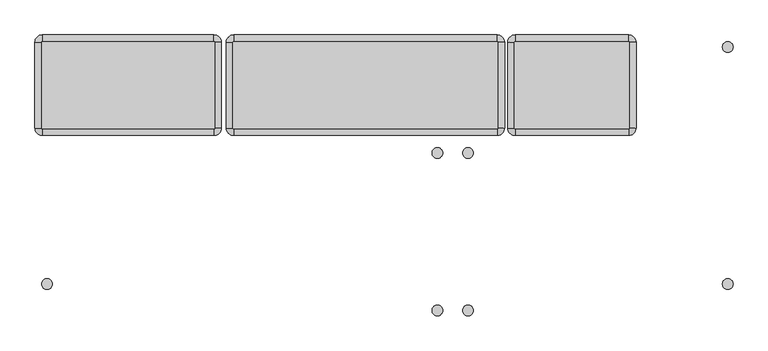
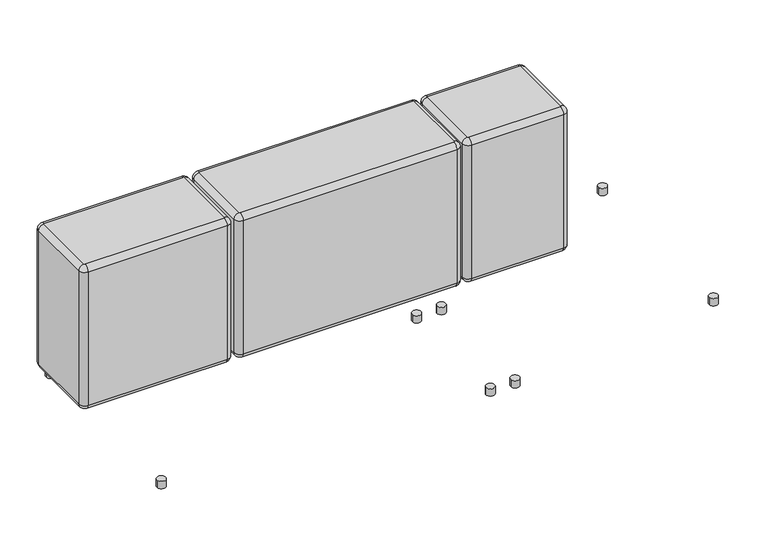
"""IFC4 building model written with IfcOpenShell, lengths in millimetres: furniture geometry, Blks_Mueb_Muuto_Sofá de 3 Plazas Softblocks : Único."""

from ifc_helpers import new_model, si_unit, point, frame, frame_2d, origin, origin_with_axes, place, context, project, spatial, circle_curve, ellipse_curve, trimmed, segment, composite_curve, outline, extrude, source, transform, mapped, element, save
from ifc_brep_helpers import plane_surface, cylinder_surface, revolved_surface, advanced_brep


def furniture_f4cfe565(model_context):
    return source(origin(), model_context, "Body", "SolidModel", [
        extrude(outline(composite_curve([segment(trimmed(circle_curve(frame_2d((-1271.6021541, 490.7895672)), 20.0), [point((-1291.6021541, 490.7895672))], [point((-1251.6021541, 490.7895672))], False, "CARTESIAN"), True, "CONTINUOUS"), segment(trimmed(circle_curve(frame_2d((-1271.6021541, 490.7895672)), 20.0), [point((-1251.6021541, 490.7895672))], [point((-1291.6021541, 490.7895672))], False, "CARTESIAN"), True, "CONTINUOUS")], self_intersect=False)), origin_with_axes(), (0.0, 0.0, 1.0), 35.0),
        extrude(outline(composite_curve([segment(trimmed(circle_curve(frame_2d((-1271.6021541, -394.560734)), 20.0), [point((-1291.6021541, -394.560734))], [point((-1251.6021541, -394.560734))], False, "CARTESIAN"), True, "CONTINUOUS"), segment(trimmed(circle_curve(frame_2d((-1271.6021541, -394.560734)), 20.0), [point((-1251.6021541, -394.560734))], [point((-1291.6021541, -394.560734))], False, "CARTESIAN"), True, "CONTINUOUS")], self_intersect=False)), origin_with_axes(), (0.0, 0.0, 1.0), 35.0),
        extrude(outline(composite_curve([segment(trimmed(circle_curve(frame_2d((186.9109334, -493.0)), 20.0), [point((166.9109334, -493.0))], [point((206.9109334, -493.0))], False, "CARTESIAN"), True, "CONTINUOUS"), segment(trimmed(circle_curve(frame_2d((186.9109334, -493.0)), 20.0), [point((206.9109334, -493.0))], [point((166.9109334, -493.0))], False, "CARTESIAN"), True, "CONTINUOUS")], self_intersect=False)), origin_with_axes(), (0.0, 0.0, 1.0), 35.0),
        extrude(outline(composite_curve([segment(trimmed(circle_curve(frame_2d((186.9109334, 95.0)), 20.0), [point((166.9109334, 95.0))], [point((206.9109334, 95.0))], False, "CARTESIAN"), True, "CONTINUOUS"), segment(trimmed(circle_curve(frame_2d((186.9109334, 95.0)), 20.0), [point((206.9109334, 95.0))], [point((166.9109334, 95.0))], False, "CARTESIAN"), True, "CONTINUOUS")], self_intersect=False)), origin_with_axes(), (0.0, 0.0, 1.0), 35.0),
        extrude(outline(composite_curve([segment(trimmed(circle_curve(frame_2d((301.0613932, -493.0)), 20.0), [point((281.0613932, -493.0))], [point((321.0613932, -493.0))], False, "CARTESIAN"), True, "CONTINUOUS"), segment(trimmed(circle_curve(frame_2d((301.0613932, -493.0)), 20.0), [point((321.0613932, -493.0))], [point((281.0613932, -493.0))], False, "CARTESIAN"), True, "CONTINUOUS")], self_intersect=False)), origin_with_axes(), (0.0, 0.0, 1.0), 35.0),
        extrude(outline(composite_curve([segment(trimmed(circle_curve(frame_2d((301.0613932, 95.0)), 20.0), [point((281.0613932, 95.0))], [point((321.0613932, 95.0))], False, "CARTESIAN"), True, "CONTINUOUS"), segment(trimmed(circle_curve(frame_2d((301.0613932, 95.0)), 20.0), [point((321.0613932, 95.0))], [point((281.0613932, 95.0))], False, "CARTESIAN"), True, "CONTINUOUS")], self_intersect=False)), origin_with_axes(), (0.0, 0.0, 1.0), 35.0),
        extrude(outline(composite_curve([segment(trimmed(circle_curve(frame_2d((1271.6021541, 490.7895672)), 20.0), [point((1251.6021541, 490.7895672))], [point((1291.6021541, 490.7895672))], False, "CARTESIAN"), True, "CONTINUOUS"), segment(trimmed(circle_curve(frame_2d((1271.6021541, 490.7895672)), 20.0), [point((1291.6021541, 490.7895672))], [point((1251.6021541, 490.7895672))], False, "CARTESIAN"), True, "CONTINUOUS")], self_intersect=False)), origin_with_axes(), (0.0, 0.0, 1.0), 35.0),
        extrude(outline(composite_curve([segment(trimmed(circle_curve(frame_2d((1271.6021541, -394.560734)), 20.0), [point((1251.6021541, -394.560734))], [point((1291.6021541, -394.560734))], False, "CARTESIAN"), True, "CONTINUOUS"), segment(trimmed(circle_curve(frame_2d((1271.6021541, -394.560734)), 20.0), [point((1291.6021541, -394.560734))], [point((1251.6021541, -394.560734))], False, "CARTESIAN"), True, "CONTINUOUS")], self_intersect=False)), origin_with_axes(), (0.0, 0.0, 1.0), 35.0),
        extrude(outline(composite_curve([segment(trimmed(circle_curve(frame_2d((387.2672465, 489.3348818)), 20.0), [point((367.2672465, 489.3348818))], [point((407.2672465, 489.3348818))], False, "CARTESIAN"), True, "CONTINUOUS"), segment(trimmed(circle_curve(frame_2d((387.2672465, 489.3348818)), 20.0), [point((407.2672465, 489.3348818))], [point((367.2672465, 489.3348818))], False, "CARTESIAN"), True, "CONTINUOUS")], self_intersect=False)), origin_with_axes(), (0.0, 0.0, 1.0), 35.0),
        extrude(outline(composite_curve([segment(trimmed(circle_curve(frame_2d((501.4177063, 489.3348818)), 20.0), [point((481.4177063, 489.3348818))], [point((521.4177063, 489.3348818))], False, "CARTESIAN"), True, "CONTINUOUS"), segment(trimmed(circle_curve(frame_2d((501.4177063, 489.3348818)), 20.0), [point((521.4177063, 489.3348818))], [point((481.4177063, 489.3348818))], False, "CARTESIAN"), True, "CONTINUOUS")], self_intersect=False)), origin_with_axes(), (0.0, 0.0, 1.0), 35.0),
        advanced_brep(
        [(-1288.765058, 511.1266633, 735.0), (-1291.6021541, 508.2895672, 735.0), (-1291.6021541, 188.2895672, 735.0), (-1288.765058, 185.452471, 735.0), (-647.6023474, 185.452471, 735.0), (-644.7652512, 188.2895672, 735.0), (-644.7652512, 508.2895672, 735.0), (-647.6023474, 511.1266633, 735.0), (-1291.6021541, 508.2895672, 35.0), (-1288.765058, 511.1266633, 35.0), (-647.6023474, 511.1266633, 35.0), (-644.7652512, 508.2895672, 35.0), (-644.7652512, 188.2895672, 35.0), (-647.6023474, 185.452471, 35.0), (-1288.765058, 185.452471, 35.0), (-1291.6021541, 188.2895672, 35.0), (-1316.5364303, 508.2895672, 711.8115942), (-1288.765058, 536.0609394, 711.8115942), (-1316.5364303, 188.2895672, 711.8115942), (-1288.765058, 160.5181949, 711.8115942), (-647.6023474, 160.5181949, 711.8115942), (-619.8309751, 188.2895672, 711.8115942), (-619.8309751, 508.2895672, 711.8115942), (-647.6023474, 536.0609394, 711.8115942), (-1288.765058, 536.0609394, 61.8115942), (-1316.5364303, 508.2895672, 61.8115942), (-1316.5364303, 188.2895672, 61.8115942), (-1288.765058, 160.5181949, 61.8115942), (-647.6023474, 160.5181949, 61.8115942), (-619.8309751, 188.2895672, 61.8115942), (-619.8309751, 508.2895672, 61.8115942), (-647.6023474, 536.0609394, 61.8115942)],
        [
            (0, 1, circle_curve(frame((-1288.765058, 508.2895672, 735.0), z_axis=(0.0, 0.0, 1.0), x_axis=(0.0, 1.0, 0.0)), 2.8370961)),
            (1, 2),
            (2, 3, circle_curve(frame((-1288.765058, 188.2895672, 735.0), z_axis=(0.0, 0.0, 1.0), x_axis=(-1.0, 0.0, 0.0)), 2.8370961)),
            (3, 4),
            (4, 5, circle_curve(frame((-647.6023474, 188.2895672, 735.0), z_axis=(0.0, 0.0, 1.0), x_axis=(0.0, -1.0, 0.0)), 2.8370961)),
            (5, 6),
            (6, 7, circle_curve(frame((-647.6023474, 508.2895672, 735.0), z_axis=(0.0, 0.0, 1.0), x_axis=(1.0, 0.0, 0.0)), 2.8370961)),
            (7, 0),
            (8, 9, circle_curve(frame((-1288.765058, 508.2895672, 35.0), z_axis=(0.0, 0.0, -1.0), x_axis=(0.0, 1.0, 0.0)), 2.8370961)),
            (9, 10),
            (10, 11, circle_curve(frame((-647.6023474, 508.2895672, 35.0), z_axis=(0.0, 0.0, -1.0), x_axis=(1.0, 0.0, 0.0)), 2.8370961)),
            (11, 12),
            (12, 13, circle_curve(frame((-647.6023474, 188.2895672, 35.0), z_axis=(0.0, 0.0, -1.0), x_axis=(0.0, -1.0, 0.0)), 2.8370961)),
            (13, 14),
            (14, 15, circle_curve(frame((-1288.765058, 188.2895672, 35.0), z_axis=(0.0, 0.0, -1.0), x_axis=(-1.0, 0.0, 0.0)), 2.8370961)),
            (15, 8),
            (16, 1, circle_curve(frame((-1291.6021541, 508.2895672, 710.0), z_axis=(0.0, 1.0, 0.0), x_axis=(1.0, 0.0, 0.0)), 25.0)),
            (0, 17, circle_curve(frame((-1288.765058, 511.1266633, 710.0), z_axis=(-1.0, 0.0, 0.0), x_axis=(0.0, -1.0, 0.0)), 25.0)),
            (17, 16, circle_curve(frame((-1288.765058, 508.2895672, 711.8115942), z_axis=(0.0, 0.0, 1.0), x_axis=(0.0, 1.0, 0.0)), 27.7713723)),
            (16, 18),
            (18, 2, circle_curve(frame((-1291.6021541, 188.2895672, 710.0), z_axis=(0.0, 1.0, 0.0), x_axis=(1.0, 0.0, 0.0)), 25.0)),
            (18, 19, circle_curve(frame((-1288.765058, 188.2895672, 711.8115942), z_axis=(0.0, 0.0, 1.0), x_axis=(-1.0, 0.0, 0.0)), 27.7713723)),
            (19, 3, circle_curve(frame((-1288.765058, 185.452471, 710.0), z_axis=(-1.0, 0.0, 0.0), x_axis=(0.0, 1.0, 0.0)), 25.0)),
            (19, 20),
            (20, 4, circle_curve(frame((-647.6023474, 185.452471, 710.0), z_axis=(-1.0, 0.0, 0.0), x_axis=(0.0, 1.0, 0.0)), 25.0)),
            (20, 21, circle_curve(frame((-647.6023474, 188.2895672, 711.8115942), z_axis=(0.0, 0.0, 1.0), x_axis=(0.0, -1.0, 0.0)), 27.7713723)),
            (21, 5, circle_curve(frame((-644.7652512, 188.2895672, 710.0), z_axis=(0.0, -1.0, 0.0), x_axis=(-1.0, 0.0, 0.0)), 25.0)),
            (21, 22),
            (22, 6, circle_curve(frame((-644.7652512, 508.2895672, 710.0), z_axis=(0.0, -1.0, 0.0), x_axis=(-1.0, 0.0, 0.0)), 25.0)),
            (22, 23, circle_curve(frame((-647.6023474, 508.2895672, 711.8115942), z_axis=(0.0, 0.0, 1.0), x_axis=(1.0, 0.0, 0.0)), 27.7713723)),
            (23, 7, circle_curve(frame((-647.6023474, 511.1266633, 710.0), z_axis=(1.0, 0.0, 0.0), x_axis=(0.0, -1.0, 0.0)), 25.0)),
            (23, 17),
            (17, 24, circle_curve(frame((-1288.765058, -3937.1481995, 386.8115942), z_axis=(-1.0, 0.0, 0.0), x_axis=(0.0, -1.0, 0.0)), 4485.0)),
            (24, 25, circle_curve(frame((-1288.765058, 508.2895672, 61.8115942), z_axis=(0.0, 0.0, 1.0), x_axis=(0.0, 1.0, 0.0)), 27.7713723)),
            (25, 16, circle_curve(frame((3156.6727087, 508.2895672, 386.8115942), z_axis=(0.0, 1.0, 0.0), x_axis=(1.0, 0.0, 0.0)), 4485.0)),
            (25, 26),
            (26, 18, circle_curve(frame((3156.6727087, 188.2895672, 386.8115942), z_axis=(0.0, 1.0, 0.0), x_axis=(1.0, 0.0, 0.0)), 4485.0)),
            (26, 27, circle_curve(frame((-1288.765058, 188.2895672, 61.8115942), z_axis=(0.0, 0.0, 1.0), x_axis=(-1.0, 0.0, 0.0)), 27.7713723)),
            (27, 19, circle_curve(frame((-1288.765058, 4633.7273338, 386.8115942), z_axis=(-1.0, 0.0, 0.0), x_axis=(0.0, 1.0, 0.0)), 4485.0)),
            (27, 28),
            (28, 20, circle_curve(frame((-647.6023474, 4633.7273338, 386.8115942), z_axis=(-1.0, 0.0, 0.0), x_axis=(0.0, 1.0, 0.0)), 4485.0)),
            (28, 29, circle_curve(frame((-647.6023474, 188.2895672, 61.8115942), z_axis=(0.0, 0.0, 1.0), x_axis=(0.0, -1.0, 0.0)), 27.7713723)),
            (29, 21, circle_curve(frame((-5093.040114, 188.2895672, 386.8115942), z_axis=(0.0, -1.0, 0.0), x_axis=(-1.0, 0.0, 0.0)), 4485.0)),
            (29, 30),
            (30, 22, circle_curve(frame((-5093.040114, 508.2895672, 386.8115942), z_axis=(0.0, -1.0, 0.0), x_axis=(-1.0, 0.0, 0.0)), 4485.0)),
            (30, 31, circle_curve(frame((-647.6023474, 508.2895672, 61.8115942), z_axis=(0.0, 0.0, 1.0), x_axis=(1.0, 0.0, 0.0)), 27.7713723)),
            (31, 23, circle_curve(frame((-647.6023474, -3937.1481995, 386.8115942), z_axis=(1.0, 0.0, 0.0), x_axis=(0.0, -1.0, 0.0)), 4485.0)),
            (31, 24),
            (24, 9, circle_curve(frame((-1288.765058, 506.9005148, 63.9302383), z_axis=(-1.0, 0.0, 0.0), x_axis=(0.0, -1.0, 0.0)), 29.2372881)),
            (8, 25, circle_curve(frame((-1287.3760056, 508.2895672, 63.9302383), z_axis=(0.0, 1.0, 0.0), x_axis=(1.0, 0.0, 0.0)), 29.2372881)),
            (15, 26, circle_curve(frame((-1287.3760056, 188.2895672, 63.9302383), z_axis=(0.0, 1.0, 0.0), x_axis=(1.0, 0.0, 0.0)), 29.2372881)),
            (14, 27, circle_curve(frame((-1288.765058, 189.6786195, 63.9302383), z_axis=(-1.0, 0.0, 0.0), x_axis=(0.0, 1.0, 0.0)), 29.2372881)),
            (13, 28, circle_curve(frame((-647.6023474, 189.6786195, 63.9302383), z_axis=(-1.0, 0.0, 0.0), x_axis=(0.0, 1.0, 0.0)), 29.2372881)),
            (12, 29, circle_curve(frame((-648.9913997, 188.2895672, 63.9302383), z_axis=(0.0, -1.0, 0.0), x_axis=(-1.0, 0.0, 0.0)), 29.2372881)),
            (11, 30, circle_curve(frame((-648.9913997, 508.2895672, 63.9302383), z_axis=(0.0, -1.0, 0.0), x_axis=(-1.0, 0.0, 0.0)), 29.2372881)),
            (10, 31, circle_curve(frame((-647.6023474, 506.9005148, 63.9302383), z_axis=(1.0, 0.0, 0.0), x_axis=(0.0, -1.0, 0.0)), 29.2372881)),
        ],
        [
            plane_surface(frame((-647.6023474, 228.2895672, 735.0), z_axis=(0.0, 0.0, 1.0), x_axis=(-1.0, 0.0, 0.0))),
            plane_surface(frame((-647.6023474, 228.2895672, 35.0), z_axis=(0.0, 0.0, -1.0), x_axis=(1.0, 0.0, 0.0))),
            revolved_surface(trimmed(ellipse_curve(frame((-1288.765058, 511.1266633, 710.0), z_axis=(1.0, 0.0, 0.0), x_axis=(0.0, -1.0, 0.0)), 25.0, 25.0), [point((-1288.765058, 536.0609394, 711.8115942))], [point((-1288.765058, 511.1266633, 735.0))], True, "CARTESIAN"), (-1288.765058, 508.2895672, 735.0), (0.0, 0.0, 1.0)),
            cylinder_surface(frame((-1291.6021541, 508.2895672, 710.0), z_axis=(0.0, -1.0, 0.0), x_axis=(1.0, 0.0, 0.0)), 25.0),
            revolved_surface(trimmed(ellipse_curve(frame((-1291.6021541, 188.2895672, 710.0), z_axis=(0.0, 1.0, 0.0), x_axis=(1.0, 0.0, 0.0)), 25.0, 25.0), [point((-1316.5364303, 188.2895672, 711.8115942))], [point((-1291.6021541, 188.2895672, 735.0))], True, "CARTESIAN"), (-1288.765058, 188.2895672, 735.0), (0.0, 0.0, 1.0)),
            cylinder_surface(frame((-1288.765058, 185.452471, 710.0), z_axis=(1.0, 0.0, 0.0), x_axis=(0.0, 1.0, 0.0)), 25.0),
            revolved_surface(trimmed(ellipse_curve(frame((-647.6023474, 185.452471, 710.0), z_axis=(-1.0, 0.0, 0.0), x_axis=(0.0, 1.0, 0.0)), 25.0, 25.0), [point((-647.6023474, 160.5181949, 711.8115942))], [point((-647.6023474, 185.452471, 735.0))], True, "CARTESIAN"), (-647.6023474, 188.2895672, 735.0), (0.0, 0.0, 1.0)),
            cylinder_surface(frame((-644.7652512, 188.2895672, 710.0), z_axis=(0.0, 1.0, 0.0), x_axis=(-1.0, 0.0, 0.0)), 25.0),
            revolved_surface(trimmed(ellipse_curve(frame((-644.7652512, 508.2895672, 710.0), z_axis=(0.0, -1.0, 0.0), x_axis=(-1.0, 0.0, 0.0)), 25.0, 25.0), [point((-619.8309751, 508.2895672, 711.8115942))], [point((-644.7652512, 508.2895672, 735.0))], True, "CARTESIAN"), (-647.6023474, 508.2895672, 735.0), (0.0, 0.0, 1.0)),
            cylinder_surface(frame((-647.6023474, 511.1266633, 710.0), z_axis=(-1.0, 0.0, 0.0), x_axis=(0.0, -1.0, 0.0)), 25.0),
            revolved_surface(trimmed(ellipse_curve(frame((-1288.765058, -3937.1481995, 386.8115942), z_axis=(1.0, 0.0, 0.0), x_axis=(0.0, -1.0, 0.0)), 4485.0, 4485.0), [point((-1288.765058, 536.0609394, 61.8115942))], [point((-1288.765058, 536.0609394, 711.8115942))], True, "CARTESIAN"), (-1288.765058, 508.2895672, 735.0), (0.0, 0.0, 1.0)),
            cylinder_surface(frame((3156.6727087, 508.2895672, 386.8115942), z_axis=(0.0, -1.0, 0.0), x_axis=(1.0, 0.0, 0.0)), 4485.0),
            revolved_surface(trimmed(ellipse_curve(frame((3156.6727087, 188.2895672, 386.8115942), z_axis=(0.0, 1.0, 0.0), x_axis=(1.0, 0.0, 0.0)), 4485.0, 4485.0), [point((-1316.5364303, 188.2895672, 61.8115942))], [point((-1316.5364303, 188.2895672, 711.8115942))], True, "CARTESIAN"), (-1288.765058, 188.2895672, 735.0), (0.0, 0.0, 1.0)),
            cylinder_surface(frame((-1288.765058, 4633.7273338, 386.8115942), z_axis=(1.0, 0.0, 0.0), x_axis=(0.0, 1.0, 0.0)), 4485.0),
            revolved_surface(trimmed(ellipse_curve(frame((-647.6023474, 4633.7273338, 386.8115942), z_axis=(-1.0, 0.0, 0.0), x_axis=(0.0, 1.0, 0.0)), 4485.0, 4485.0), [point((-647.6023474, 160.5181949, 61.8115942))], [point((-647.6023474, 160.5181949, 711.8115942))], True, "CARTESIAN"), (-647.6023474, 188.2895672, 735.0), (0.0, 0.0, 1.0)),
            cylinder_surface(frame((-5093.040114, 188.2895672, 386.8115942), z_axis=(0.0, 1.0, 0.0), x_axis=(-1.0, 0.0, 0.0)), 4485.0),
            revolved_surface(trimmed(ellipse_curve(frame((-5093.040114, 508.2895672, 386.8115942), z_axis=(0.0, -1.0, 0.0), x_axis=(-1.0, 0.0, 0.0)), 4485.0, 4485.0), [point((-619.8309751, 508.2895672, 61.8115942))], [point((-619.8309751, 508.2895672, 711.8115942))], True, "CARTESIAN"), (-647.6023474, 508.2895672, 735.0), (0.0, 0.0, 1.0)),
            cylinder_surface(frame((-647.6023474, -3937.1481995, 386.8115942), z_axis=(-1.0, 0.0, 0.0), x_axis=(0.0, -1.0, 0.0)), 4485.0),
            revolved_surface(trimmed(ellipse_curve(frame((-1288.765058, 506.9005148, 63.9302383), z_axis=(1.0, 0.0, 0.0), x_axis=(0.0, -1.0, 0.0)), 29.2372881, 29.2372881), [point((-1288.765058, 511.1266633, 35.0))], [point((-1288.765058, 536.0609394, 61.8115942))], True, "CARTESIAN"), (-1288.765058, 508.2895672, 735.0), (0.0, 0.0, 1.0)),
            cylinder_surface(frame((-1287.3760056, 508.2895672, 63.9302383), z_axis=(0.0, -1.0, 0.0), x_axis=(1.0, 0.0, 0.0)), 29.2372881),
            revolved_surface(trimmed(ellipse_curve(frame((-1287.3760056, 188.2895672, 63.9302383), z_axis=(0.0, 1.0, 0.0), x_axis=(1.0, 0.0, 0.0)), 29.2372881, 29.2372881), [point((-1291.6021541, 188.2895672, 35.0))], [point((-1316.5364303, 188.2895672, 61.8115942))], True, "CARTESIAN"), (-1288.765058, 188.2895672, 735.0), (0.0, 0.0, 1.0)),
            cylinder_surface(frame((-1288.765058, 189.6786195, 63.9302383), z_axis=(1.0, 0.0, 0.0), x_axis=(0.0, 1.0, 0.0)), 29.2372881),
            revolved_surface(trimmed(ellipse_curve(frame((-647.6023474, 189.6786195, 63.9302383), z_axis=(-1.0, 0.0, 0.0), x_axis=(0.0, 1.0, 0.0)), 29.2372881, 29.2372881), [point((-647.6023474, 185.452471, 35.0))], [point((-647.6023474, 160.5181949, 61.8115942))], True, "CARTESIAN"), (-647.6023474, 188.2895672, 735.0), (0.0, 0.0, 1.0)),
            cylinder_surface(frame((-648.9913997, 188.2895672, 63.9302383), z_axis=(0.0, 1.0, 0.0), x_axis=(-1.0, 0.0, 0.0)), 29.2372881),
            revolved_surface(trimmed(ellipse_curve(frame((-648.9913997, 508.2895672, 63.9302383), z_axis=(0.0, -1.0, 0.0), x_axis=(-1.0, 0.0, 0.0)), 29.2372881, 29.2372881), [point((-644.7652512, 508.2895672, 35.0))], [point((-619.8309751, 508.2895672, 61.8115942))], True, "CARTESIAN"), (-647.6023474, 508.2895672, 735.0), (0.0, 0.0, 1.0)),
            cylinder_surface(frame((-647.6023474, 506.9005148, 63.9302383), z_axis=(-1.0, 0.0, 0.0), x_axis=(0.0, -1.0, 0.0)), 29.2372881),
        ],
        [
            (0, [[1, 2, 3, 4, 5, 6, 7, 8]]),
            (1, [[9, 10, 11, 12, 13, 14, 15, 16]]),
            (2, [[17, -1, 18, 19]]),
            (3, [[-17, 20, 21, -2]]),
            (4, [[-21, 22, 23, -3]]),
            (5, [[-23, 24, 25, -4]]),
            (6, [[-25, 26, 27, -5]]),
            (7, [[-27, 28, 29, -6]]),
            (8, [[-29, 30, 31, -7]]),
            (9, [[-18, -8, -31, 32]]),
            (10, [[-19, 33, 34, 35]]),
            (11, [[-20, -35, 36, 37]]),
            (12, [[-22, -37, 38, 39]]),
            (13, [[-24, -39, 40, 41]]),
            (14, [[-26, -41, 42, 43]]),
            (15, [[-28, -43, 44, 45]]),
            (16, [[-30, -45, 46, 47]]),
            (17, [[-32, -47, 48, -33]]),
            (18, [[-34, 49, -9, 50]]),
            (19, [[-36, -50, -16, 51]]),
            (20, [[-38, -51, -15, 52]]),
            (21, [[-40, -52, -14, 53]]),
            (22, [[-42, -53, -13, 54]]),
            (23, [[-44, -54, -12, 55]]),
            (24, [[-46, -55, -11, 56]]),
            (25, [[-48, -56, -10, -49]]),
        ],
    ),
        advanced_brep(
        [(-573.8523474, 511.1266633, 735.0), (-576.6894435, 508.2895672, 735.0), (-576.6894435, 188.2895672, 735.0), (-573.8523474, 185.452471, 735.0), (410.0, 185.452471, 735.0), (412.8370961, 188.2895672, 735.0), (412.8370961, 508.2895672, 735.0), (410.0, 511.1266633, 735.0), (-576.6894435, 508.2895672, 35.0), (-573.8523474, 511.1266633, 35.0), (410.0, 511.1266633, 35.0), (412.8370961, 508.2895672, 35.0), (412.8370961, 188.2895672, 35.0), (410.0, 185.452471, 35.0), (-573.8523474, 185.452471, 35.0), (-576.6894435, 188.2895672, 35.0), (-601.6237196, 508.2895672, 711.8115942), (-573.8523474, 536.0609394, 711.8115942), (-601.6237196, 188.2895672, 711.8115942), (-573.8523474, 160.5181949, 711.8115942), (410.0, 160.5181949, 711.8115942), (437.7713723, 188.2895672, 711.8115942), (437.7713723, 508.2895672, 711.8115942), (410.0, 536.0609394, 711.8115942), (-573.8523474, 536.0609394, 61.8115942), (-601.6237196, 508.2895672, 61.8115942), (-601.6237196, 188.2895672, 61.8115942), (-573.8523474, 160.5181949, 61.8115942), (410.0, 160.5181949, 61.8115942), (437.7713723, 188.2895672, 61.8115942), (437.7713723, 508.2895672, 61.8115942), (410.0, 536.0609394, 61.8115942)],
        [
            (0, 1, circle_curve(frame((-573.8523474, 508.2895672, 735.0), z_axis=(0.0, 0.0, 1.0), x_axis=(0.0, 1.0, 0.0)), 2.8370961)),
            (1, 2),
            (2, 3, circle_curve(frame((-573.8523474, 188.2895672, 735.0), z_axis=(0.0, 0.0, 1.0), x_axis=(-1.0, 0.0, 0.0)), 2.8370961)),
            (3, 4),
            (4, 5, circle_curve(frame((410.0, 188.2895672, 735.0), z_axis=(0.0, 0.0, 1.0), x_axis=(0.0, -1.0, 0.0)), 2.8370961)),
            (5, 6),
            (6, 7, circle_curve(frame((410.0, 508.2895672, 735.0), z_axis=(0.0, 0.0, 1.0), x_axis=(1.0, 0.0, 0.0)), 2.8370961)),
            (7, 0),
            (8, 9, circle_curve(frame((-573.8523474, 508.2895672, 35.0), z_axis=(0.0, 0.0, -1.0), x_axis=(0.0, 1.0, 0.0)), 2.8370961)),
            (9, 10),
            (10, 11, circle_curve(frame((410.0, 508.2895672, 35.0), z_axis=(0.0, 0.0, -1.0), x_axis=(1.0, 0.0, 0.0)), 2.8370961)),
            (11, 12),
            (12, 13, circle_curve(frame((410.0, 188.2895672, 35.0), z_axis=(0.0, 0.0, -1.0), x_axis=(0.0, -1.0, 0.0)), 2.8370961)),
            (13, 14),
            (14, 15, circle_curve(frame((-573.8523474, 188.2895672, 35.0), z_axis=(0.0, 0.0, -1.0), x_axis=(-1.0, 0.0, 0.0)), 2.8370961)),
            (15, 8),
            (16, 1, circle_curve(frame((-576.6894435, 508.2895672, 710.0), z_axis=(0.0, 1.0, 0.0), x_axis=(1.0, 0.0, 0.0)), 25.0)),
            (0, 17, circle_curve(frame((-573.8523474, 511.1266633, 710.0), z_axis=(-1.0, 0.0, 0.0), x_axis=(0.0, -1.0, 0.0)), 25.0)),
            (17, 16, circle_curve(frame((-573.8523474, 508.2895672, 711.8115942), z_axis=(0.0, 0.0, 1.0), x_axis=(0.0, 1.0, 0.0)), 27.7713723)),
            (16, 18),
            (18, 2, circle_curve(frame((-576.6894435, 188.2895672, 710.0), z_axis=(0.0, 1.0, 0.0), x_axis=(1.0, 0.0, 0.0)), 25.0)),
            (18, 19, circle_curve(frame((-573.8523474, 188.2895672, 711.8115942), z_axis=(0.0, 0.0, 1.0), x_axis=(-1.0, 0.0, 0.0)), 27.7713723)),
            (19, 3, circle_curve(frame((-573.8523474, 185.452471, 710.0), z_axis=(-1.0, 0.0, 0.0), x_axis=(0.0, 1.0, 0.0)), 25.0)),
            (19, 20),
            (20, 4, circle_curve(frame((410.0, 185.452471, 710.0), z_axis=(-1.0, 0.0, 0.0), x_axis=(0.0, 1.0, 0.0)), 25.0)),
            (20, 21, circle_curve(frame((410.0, 188.2895672, 711.8115942), z_axis=(0.0, 0.0, 1.0), x_axis=(0.0, -1.0, 0.0)), 27.7713723)),
            (21, 5, circle_curve(frame((412.8370961, 188.2895672, 710.0), z_axis=(0.0, -1.0, 0.0), x_axis=(-1.0, 0.0, 0.0)), 25.0)),
            (21, 22),
            (22, 6, circle_curve(frame((412.8370961, 508.2895672, 710.0), z_axis=(0.0, -1.0, 0.0), x_axis=(-1.0, 0.0, 0.0)), 25.0)),
            (22, 23, circle_curve(frame((410.0, 508.2895672, 711.8115942), z_axis=(0.0, 0.0, 1.0), x_axis=(1.0, 0.0, 0.0)), 27.7713723)),
            (23, 7, circle_curve(frame((410.0, 511.1266633, 710.0), z_axis=(1.0, 0.0, 0.0), x_axis=(0.0, -1.0, 0.0)), 25.0)),
            (23, 17),
            (17, 24, circle_curve(frame((-573.8523474, -3937.1481995, 386.8115942), z_axis=(-1.0, 0.0, 0.0), x_axis=(0.0, -1.0, 0.0)), 4485.0)),
            (24, 25, circle_curve(frame((-573.8523474, 508.2895672, 61.8115942), z_axis=(0.0, 0.0, 1.0), x_axis=(0.0, 1.0, 0.0)), 27.7713723)),
            (25, 16, circle_curve(frame((3871.5854193, 508.2895672, 386.8115942), z_axis=(0.0, 1.0, 0.0), x_axis=(1.0, 0.0, 0.0)), 4485.0)),
            (25, 26),
            (26, 18, circle_curve(frame((3871.5854193, 188.2895672, 386.8115942), z_axis=(0.0, 1.0, 0.0), x_axis=(1.0, 0.0, 0.0)), 4485.0)),
            (26, 27, circle_curve(frame((-573.8523474, 188.2895672, 61.8115942), z_axis=(0.0, 0.0, 1.0), x_axis=(-1.0, 0.0, 0.0)), 27.7713723)),
            (27, 19, circle_curve(frame((-573.8523474, 4633.7273338, 386.8115942), z_axis=(-1.0, 0.0, 0.0), x_axis=(0.0, 1.0, 0.0)), 4485.0)),
            (27, 28),
            (28, 20, circle_curve(frame((410.0, 4633.7273338, 386.8115942), z_axis=(-1.0, 0.0, 0.0), x_axis=(0.0, 1.0, 0.0)), 4485.0)),
            (28, 29, circle_curve(frame((410.0, 188.2895672, 61.8115942), z_axis=(0.0, 0.0, 1.0), x_axis=(0.0, -1.0, 0.0)), 27.7713723)),
            (29, 21, circle_curve(frame((-4035.4377666, 188.2895672, 386.8115942), z_axis=(0.0, -1.0, 0.0), x_axis=(-1.0, 0.0, 0.0)), 4485.0)),
            (29, 30),
            (30, 22, circle_curve(frame((-4035.4377666, 508.2895672, 386.8115942), z_axis=(0.0, -1.0, 0.0), x_axis=(-1.0, 0.0, 0.0)), 4485.0)),
            (30, 31, circle_curve(frame((410.0, 508.2895672, 61.8115942), z_axis=(0.0, 0.0, 1.0), x_axis=(1.0, 0.0, 0.0)), 27.7713723)),
            (31, 23, circle_curve(frame((410.0, -3937.1481995, 386.8115942), z_axis=(1.0, 0.0, 0.0), x_axis=(0.0, -1.0, 0.0)), 4485.0)),
            (31, 24),
            (24, 9, circle_curve(frame((-573.8523474, 506.9005148, 63.9302383), z_axis=(-1.0, 0.0, 0.0), x_axis=(0.0, -1.0, 0.0)), 29.2372881)),
            (8, 25, circle_curve(frame((-572.463295, 508.2895672, 63.9302383), z_axis=(0.0, 1.0, 0.0), x_axis=(1.0, 0.0, 0.0)), 29.2372881)),
            (15, 26, circle_curve(frame((-572.463295, 188.2895672, 63.9302383), z_axis=(0.0, 1.0, 0.0), x_axis=(1.0, 0.0, 0.0)), 29.2372881)),
            (14, 27, circle_curve(frame((-573.8523474, 189.6786195, 63.9302383), z_axis=(-1.0, 0.0, 0.0), x_axis=(0.0, 1.0, 0.0)), 29.2372881)),
            (13, 28, circle_curve(frame((410.0, 189.6786195, 63.9302383), z_axis=(-1.0, 0.0, 0.0), x_axis=(0.0, 1.0, 0.0)), 29.2372881)),
            (12, 29, circle_curve(frame((408.6109476, 188.2895672, 63.9302383), z_axis=(0.0, -1.0, 0.0), x_axis=(-1.0, 0.0, 0.0)), 29.2372881)),
            (11, 30, circle_curve(frame((408.6109476, 508.2895672, 63.9302383), z_axis=(0.0, -1.0, 0.0), x_axis=(-1.0, 0.0, 0.0)), 29.2372881)),
            (10, 31, circle_curve(frame((410.0, 506.9005148, 63.9302383), z_axis=(1.0, 0.0, 0.0), x_axis=(0.0, -1.0, 0.0)), 29.2372881)),
        ],
        [
            plane_surface(frame((410.0, 228.2895672, 735.0), z_axis=(0.0, 0.0, 1.0), x_axis=(-1.0, 0.0, 0.0))),
            plane_surface(frame((410.0, 228.2895672, 35.0), z_axis=(0.0, 0.0, -1.0), x_axis=(1.0, 0.0, 0.0))),
            revolved_surface(trimmed(ellipse_curve(frame((-573.8523474, 511.1266633, 710.0), z_axis=(1.0, 0.0, 0.0), x_axis=(0.0, -1.0, 0.0)), 25.0, 25.0), [point((-573.8523474, 536.0609394, 711.8115942))], [point((-573.8523474, 511.1266633, 735.0))], True, "CARTESIAN"), (-573.8523474, 508.2895672, 735.0), (0.0, 0.0, 1.0)),
            cylinder_surface(frame((-576.6894435, 508.2895672, 710.0), z_axis=(0.0, -1.0, 0.0), x_axis=(1.0, 0.0, 0.0)), 25.0),
            revolved_surface(trimmed(ellipse_curve(frame((-576.6894435, 188.2895672, 710.0), z_axis=(0.0, 1.0, 0.0), x_axis=(1.0, 0.0, 0.0)), 25.0, 25.0), [point((-601.6237196, 188.2895672, 711.8115942))], [point((-576.6894435, 188.2895672, 735.0))], True, "CARTESIAN"), (-573.8523474, 188.2895672, 735.0), (0.0, 0.0, 1.0)),
            cylinder_surface(frame((-573.8523474, 185.452471, 710.0), z_axis=(1.0, 0.0, 0.0), x_axis=(0.0, 1.0, 0.0)), 25.0),
            revolved_surface(trimmed(ellipse_curve(frame((410.0, 185.452471, 710.0), z_axis=(-1.0, 0.0, 0.0), x_axis=(0.0, 1.0, 0.0)), 25.0, 25.0), [point((410.0, 160.5181949, 711.8115942))], [point((410.0, 185.452471, 735.0))], True, "CARTESIAN"), (410.0, 188.2895672, 735.0), (0.0, 0.0, 1.0)),
            cylinder_surface(frame((412.8370961, 188.2895672, 710.0), z_axis=(0.0, 1.0, 0.0), x_axis=(-1.0, 0.0, 0.0)), 25.0),
            revolved_surface(trimmed(ellipse_curve(frame((412.8370961, 508.2895672, 710.0), z_axis=(0.0, -1.0, 0.0), x_axis=(-1.0, 0.0, 0.0)), 25.0, 25.0), [point((437.7713723, 508.2895672, 711.8115942))], [point((412.8370961, 508.2895672, 735.0))], True, "CARTESIAN"), (410.0, 508.2895672, 735.0), (0.0, 0.0, 1.0)),
            cylinder_surface(frame((410.0, 511.1266633, 710.0), z_axis=(-1.0, 0.0, 0.0), x_axis=(0.0, -1.0, 0.0)), 25.0),
            revolved_surface(trimmed(ellipse_curve(frame((-573.8523474, -3937.1481995, 386.8115942), z_axis=(1.0, 0.0, 0.0), x_axis=(0.0, -1.0, 0.0)), 4485.0, 4485.0), [point((-573.8523474, 536.0609394, 61.8115942))], [point((-573.8523474, 536.0609394, 711.8115942))], True, "CARTESIAN"), (-573.8523474, 508.2895672, 735.0), (0.0, 0.0, 1.0)),
            cylinder_surface(frame((3871.5854193, 508.2895672, 386.8115942), z_axis=(0.0, -1.0, 0.0), x_axis=(1.0, 0.0, 0.0)), 4485.0),
            revolved_surface(trimmed(ellipse_curve(frame((3871.5854193, 188.2895672, 386.8115942), z_axis=(0.0, 1.0, 0.0), x_axis=(1.0, 0.0, 0.0)), 4485.0, 4485.0), [point((-601.6237196, 188.2895672, 61.8115942))], [point((-601.6237196, 188.2895672, 711.8115942))], True, "CARTESIAN"), (-573.8523474, 188.2895672, 735.0), (0.0, 0.0, 1.0)),
            cylinder_surface(frame((-573.8523474, 4633.7273338, 386.8115942), z_axis=(1.0, 0.0, 0.0), x_axis=(0.0, 1.0, 0.0)), 4485.0),
            revolved_surface(trimmed(ellipse_curve(frame((410.0, 4633.7273338, 386.8115942), z_axis=(-1.0, 0.0, 0.0), x_axis=(0.0, 1.0, 0.0)), 4485.0, 4485.0), [point((410.0, 160.5181949, 61.8115942))], [point((410.0, 160.5181949, 711.8115942))], True, "CARTESIAN"), (410.0, 188.2895672, 735.0), (0.0, 0.0, 1.0)),
            cylinder_surface(frame((-4035.4377666, 188.2895672, 386.8115942), z_axis=(0.0, 1.0, 0.0), x_axis=(-1.0, 0.0, 0.0)), 4485.0),
            revolved_surface(trimmed(ellipse_curve(frame((-4035.4377666, 508.2895672, 386.8115942), z_axis=(0.0, -1.0, 0.0), x_axis=(-1.0, 0.0, 0.0)), 4485.0, 4485.0), [point((437.7713723, 508.2895672, 61.8115942))], [point((437.7713723, 508.2895672, 711.8115942))], True, "CARTESIAN"), (410.0, 508.2895672, 735.0), (0.0, 0.0, 1.0)),
            cylinder_surface(frame((410.0, -3937.1481995, 386.8115942), z_axis=(-1.0, 0.0, 0.0), x_axis=(0.0, -1.0, 0.0)), 4485.0),
            revolved_surface(trimmed(ellipse_curve(frame((-573.8523474, 506.9005148, 63.9302383), z_axis=(1.0, 0.0, 0.0), x_axis=(0.0, -1.0, 0.0)), 29.2372881, 29.2372881), [point((-573.8523474, 511.1266633, 35.0))], [point((-573.8523474, 536.0609394, 61.8115942))], True, "CARTESIAN"), (-573.8523474, 508.2895672, 735.0), (0.0, 0.0, 1.0)),
            cylinder_surface(frame((-572.463295, 508.2895672, 63.9302383), z_axis=(0.0, -1.0, 0.0), x_axis=(1.0, 0.0, 0.0)), 29.2372881),
            revolved_surface(trimmed(ellipse_curve(frame((-572.463295, 188.2895672, 63.9302383), z_axis=(0.0, 1.0, 0.0), x_axis=(1.0, 0.0, 0.0)), 29.2372881, 29.2372881), [point((-576.6894435, 188.2895672, 35.0))], [point((-601.6237196, 188.2895672, 61.8115942))], True, "CARTESIAN"), (-573.8523474, 188.2895672, 735.0), (0.0, 0.0, 1.0)),
            cylinder_surface(frame((-573.8523474, 189.6786195, 63.9302383), z_axis=(1.0, 0.0, 0.0), x_axis=(0.0, 1.0, 0.0)), 29.2372881),
            revolved_surface(trimmed(ellipse_curve(frame((410.0, 189.6786195, 63.9302383), z_axis=(-1.0, 0.0, 0.0), x_axis=(0.0, 1.0, 0.0)), 29.2372881, 29.2372881), [point((410.0, 185.452471, 35.0))], [point((410.0, 160.5181949, 61.8115942))], True, "CARTESIAN"), (410.0, 188.2895672, 735.0), (0.0, 0.0, 1.0)),
            cylinder_surface(frame((408.6109476, 188.2895672, 63.9302383), z_axis=(0.0, 1.0, 0.0), x_axis=(-1.0, 0.0, 0.0)), 29.2372881),
            revolved_surface(trimmed(ellipse_curve(frame((408.6109476, 508.2895672, 63.9302383), z_axis=(0.0, -1.0, 0.0), x_axis=(-1.0, 0.0, 0.0)), 29.2372881, 29.2372881), [point((412.8370961, 508.2895672, 35.0))], [point((437.7713723, 508.2895672, 61.8115942))], True, "CARTESIAN"), (410.0, 508.2895672, 735.0), (0.0, 0.0, 1.0)),
            cylinder_surface(frame((410.0, 506.9005148, 63.9302383), z_axis=(-1.0, 0.0, 0.0), x_axis=(0.0, -1.0, 0.0)), 29.2372881),
        ],
        [
            (0, [[1, 2, 3, 4, 5, 6, 7, 8]]),
            (1, [[9, 10, 11, 12, 13, 14, 15, 16]]),
            (2, [[17, -1, 18, 19]]),
            (3, [[-17, 20, 21, -2]]),
            (4, [[-21, 22, 23, -3]]),
            (5, [[-23, 24, 25, -4]]),
            (6, [[-25, 26, 27, -5]]),
            (7, [[-27, 28, 29, -6]]),
            (8, [[-29, 30, 31, -7]]),
            (9, [[-18, -8, -31, 32]]),
            (10, [[-19, 33, 34, 35]]),
            (11, [[-20, -35, 36, 37]]),
            (12, [[-22, -37, 38, 39]]),
            (13, [[-24, -39, 40, 41]]),
            (14, [[-26, -41, 42, 43]]),
            (15, [[-28, -43, 44, 45]]),
            (16, [[-30, -45, 46, 47]]),
            (17, [[-32, -47, 48, -33]]),
            (18, [[-34, 49, -9, 50]]),
            (19, [[-36, -50, -16, 51]]),
            (20, [[-38, -51, -15, 52]]),
            (21, [[-40, -52, -14, 53]]),
            (22, [[-42, -53, -13, 54]]),
            (23, [[-44, -54, -12, 55]]),
            (24, [[-46, -55, -11, 56]]),
            (25, [[-48, -56, -10, -49]]),
        ],
    ),
        advanced_brep(
        [(477.5, 511.1266633, 735.0), (474.6629039, 508.2895672, 735.0), (474.6629039, 188.2895672, 735.0), (477.5, 185.452471, 735.0), (901.1627106, 185.452471, 735.0), (903.9998067, 188.2895672, 735.0), (903.9998067, 508.2895672, 735.0), (901.1627106, 511.1266633, 735.0), (474.6629039, 508.2895672, 35.0), (477.5, 511.1266633, 35.0), (901.1627106, 511.1266633, 35.0), (903.9998067, 508.2895672, 35.0), (903.9998067, 188.2895672, 35.0), (901.1627106, 185.452471, 35.0), (477.5, 185.452471, 35.0), (474.6629039, 188.2895672, 35.0), (449.7286277, 508.2895672, 711.8115942), (477.5, 536.0609394, 711.8115942), (449.7286277, 188.2895672, 711.8115942), (477.5, 160.5181949, 711.8115942), (901.1627106, 160.5181949, 711.8115942), (928.9340829, 188.2895672, 711.8115942), (928.9340829, 508.2895672, 711.8115942), (901.1627106, 536.0609394, 711.8115942), (477.5, 536.0609394, 61.8115942), (449.7286277, 508.2895672, 61.8115942), (449.7286277, 188.2895672, 61.8115942), (477.5, 160.5181949, 61.8115942), (901.1627106, 160.5181949, 61.8115942), (928.9340829, 188.2895672, 61.8115942), (928.9340829, 508.2895672, 61.8115942), (901.1627106, 536.0609394, 61.8115942)],
        [
            (0, 1, circle_curve(frame((477.5, 508.2895672, 735.0), z_axis=(0.0, 0.0, 1.0), x_axis=(0.0, 1.0, 0.0)), 2.8370961)),
            (1, 2),
            (2, 3, circle_curve(frame((477.5, 188.2895672, 735.0), z_axis=(0.0, 0.0, 1.0), x_axis=(-1.0, 0.0, 0.0)), 2.8370961)),
            (3, 4),
            (4, 5, circle_curve(frame((901.1627106, 188.2895672, 735.0), z_axis=(0.0, 0.0, 1.0), x_axis=(0.0, -1.0, 0.0)), 2.8370961)),
            (5, 6),
            (6, 7, circle_curve(frame((901.1627106, 508.2895672, 735.0), z_axis=(0.0, 0.0, 1.0), x_axis=(1.0, 0.0, 0.0)), 2.8370961)),
            (7, 0),
            (8, 9, circle_curve(frame((477.5, 508.2895672, 35.0), z_axis=(0.0, 0.0, -1.0), x_axis=(0.0, 1.0, 0.0)), 2.8370961)),
            (9, 10),
            (10, 11, circle_curve(frame((901.1627106, 508.2895672, 35.0), z_axis=(0.0, 0.0, -1.0), x_axis=(1.0, 0.0, 0.0)), 2.8370961)),
            (11, 12),
            (12, 13, circle_curve(frame((901.1627106, 188.2895672, 35.0), z_axis=(0.0, 0.0, -1.0), x_axis=(0.0, -1.0, 0.0)), 2.8370961)),
            (13, 14),
            (14, 15, circle_curve(frame((477.5, 188.2895672, 35.0), z_axis=(0.0, 0.0, -1.0), x_axis=(-1.0, 0.0, 0.0)), 2.8370961)),
            (15, 8),
            (16, 1, circle_curve(frame((474.6629039, 508.2895672, 710.0), z_axis=(0.0, 1.0, 0.0), x_axis=(1.0, 0.0, 0.0)), 25.0)),
            (0, 17, circle_curve(frame((477.5, 511.1266633, 710.0), z_axis=(-1.0, 0.0, 0.0), x_axis=(0.0, -1.0, 0.0)), 25.0)),
            (17, 16, circle_curve(frame((477.5, 508.2895672, 711.8115942), z_axis=(0.0, 0.0, 1.0), x_axis=(0.0, 1.0, 0.0)), 27.7713723)),
            (16, 18),
            (18, 2, circle_curve(frame((474.6629039, 188.2895672, 710.0), z_axis=(0.0, 1.0, 0.0), x_axis=(1.0, 0.0, 0.0)), 25.0)),
            (18, 19, circle_curve(frame((477.5, 188.2895672, 711.8115942), z_axis=(0.0, 0.0, 1.0), x_axis=(-1.0, 0.0, 0.0)), 27.7713723)),
            (19, 3, circle_curve(frame((477.5, 185.452471, 710.0), z_axis=(-1.0, 0.0, 0.0), x_axis=(0.0, 1.0, 0.0)), 25.0)),
            (19, 20),
            (20, 4, circle_curve(frame((901.1627106, 185.452471, 710.0), z_axis=(-1.0, 0.0, 0.0), x_axis=(0.0, 1.0, 0.0)), 25.0)),
            (20, 21, circle_curve(frame((901.1627106, 188.2895672, 711.8115942), z_axis=(0.0, 0.0, 1.0), x_axis=(0.0, -1.0, 0.0)), 27.7713723)),
            (21, 5, circle_curve(frame((903.9998067, 188.2895672, 710.0), z_axis=(0.0, -1.0, 0.0), x_axis=(-1.0, 0.0, 0.0)), 25.0)),
            (21, 22),
            (22, 6, circle_curve(frame((903.9998067, 508.2895672, 710.0), z_axis=(0.0, -1.0, 0.0), x_axis=(-1.0, 0.0, 0.0)), 25.0)),
            (22, 23, circle_curve(frame((901.1627106, 508.2895672, 711.8115942), z_axis=(0.0, 0.0, 1.0), x_axis=(1.0, 0.0, 0.0)), 27.7713723)),
            (23, 7, circle_curve(frame((901.1627106, 511.1266633, 710.0), z_axis=(1.0, 0.0, 0.0), x_axis=(0.0, -1.0, 0.0)), 25.0)),
            (23, 17),
            (17, 24, circle_curve(frame((477.5, -3937.1481995, 386.8115942), z_axis=(-1.0, 0.0, 0.0), x_axis=(0.0, -1.0, 0.0)), 4485.0)),
            (24, 25, circle_curve(frame((477.5, 508.2895672, 61.8115942), z_axis=(0.0, 0.0, 1.0), x_axis=(0.0, 1.0, 0.0)), 27.7713723)),
            (25, 16, circle_curve(frame((4922.9377666, 508.2895672, 386.8115942), z_axis=(0.0, 1.0, 0.0), x_axis=(1.0, 0.0, 0.0)), 4485.0)),
            (25, 26),
            (26, 18, circle_curve(frame((4922.9377666, 188.2895672, 386.8115942), z_axis=(0.0, 1.0, 0.0), x_axis=(1.0, 0.0, 0.0)), 4485.0)),
            (26, 27, circle_curve(frame((477.5, 188.2895672, 61.8115942), z_axis=(0.0, 0.0, 1.0), x_axis=(-1.0, 0.0, 0.0)), 27.7713723)),
            (27, 19, circle_curve(frame((477.5, 4633.7273338, 386.8115942), z_axis=(-1.0, 0.0, 0.0), x_axis=(0.0, 1.0, 0.0)), 4485.0)),
            (27, 28),
            (28, 20, circle_curve(frame((901.1627106, 4633.7273338, 386.8115942), z_axis=(-1.0, 0.0, 0.0), x_axis=(0.0, 1.0, 0.0)), 4485.0)),
            (28, 29, circle_curve(frame((901.1627106, 188.2895672, 61.8115942), z_axis=(0.0, 0.0, 1.0), x_axis=(0.0, -1.0, 0.0)), 27.7713723)),
            (29, 21, circle_curve(frame((-3544.275056, 188.2895672, 386.8115942), z_axis=(0.0, -1.0, 0.0), x_axis=(-1.0, 0.0, 0.0)), 4485.0)),
            (29, 30),
            (30, 22, circle_curve(frame((-3544.275056, 508.2895672, 386.8115942), z_axis=(0.0, -1.0, 0.0), x_axis=(-1.0, 0.0, 0.0)), 4485.0)),
            (30, 31, circle_curve(frame((901.1627106, 508.2895672, 61.8115942), z_axis=(0.0, 0.0, 1.0), x_axis=(1.0, 0.0, 0.0)), 27.7713723)),
            (31, 23, circle_curve(frame((901.1627106, -3937.1481995, 386.8115942), z_axis=(1.0, 0.0, 0.0), x_axis=(0.0, -1.0, 0.0)), 4485.0)),
            (31, 24),
            (24, 9, circle_curve(frame((477.5, 506.9005148, 63.9302383), z_axis=(-1.0, 0.0, 0.0), x_axis=(0.0, -1.0, 0.0)), 29.2372881)),
            (8, 25, circle_curve(frame((478.8890524, 508.2895672, 63.9302383), z_axis=(0.0, 1.0, 0.0), x_axis=(1.0, 0.0, 0.0)), 29.2372881)),
            (15, 26, circle_curve(frame((478.8890524, 188.2895672, 63.9302383), z_axis=(0.0, 1.0, 0.0), x_axis=(1.0, 0.0, 0.0)), 29.2372881)),
            (14, 27, circle_curve(frame((477.5, 189.6786195, 63.9302383), z_axis=(-1.0, 0.0, 0.0), x_axis=(0.0, 1.0, 0.0)), 29.2372881)),
            (13, 28, circle_curve(frame((901.1627106, 189.6786195, 63.9302383), z_axis=(-1.0, 0.0, 0.0), x_axis=(0.0, 1.0, 0.0)), 29.2372881)),
            (12, 29, circle_curve(frame((899.7736582, 188.2895672, 63.9302383), z_axis=(0.0, -1.0, 0.0), x_axis=(-1.0, 0.0, 0.0)), 29.2372881)),
            (11, 30, circle_curve(frame((899.7736582, 508.2895672, 63.9302383), z_axis=(0.0, -1.0, 0.0), x_axis=(-1.0, 0.0, 0.0)), 29.2372881)),
            (10, 31, circle_curve(frame((901.1627106, 506.9005148, 63.9302383), z_axis=(1.0, 0.0, 0.0), x_axis=(0.0, -1.0, 0.0)), 29.2372881)),
        ],
        [
            plane_surface(frame((901.1627106, 228.2895672, 735.0), z_axis=(0.0, 0.0, 1.0), x_axis=(-1.0, 0.0, 0.0))),
            plane_surface(frame((901.1627106, 228.2895672, 35.0), z_axis=(0.0, 0.0, -1.0), x_axis=(1.0, 0.0, 0.0))),
            revolved_surface(trimmed(ellipse_curve(frame((477.5, 511.1266633, 710.0), z_axis=(1.0, 0.0, 0.0), x_axis=(0.0, -1.0, 0.0)), 25.0, 25.0), [point((477.5, 536.0609394, 711.8115942))], [point((477.5, 511.1266633, 735.0))], True, "CARTESIAN"), (477.5, 508.2895672, 735.0), (0.0, 0.0, 1.0)),
            cylinder_surface(frame((474.6629039, 508.2895672, 710.0), z_axis=(0.0, -1.0, 0.0), x_axis=(1.0, 0.0, 0.0)), 25.0),
            revolved_surface(trimmed(ellipse_curve(frame((474.6629039, 188.2895672, 710.0), z_axis=(0.0, 1.0, 0.0), x_axis=(1.0, 0.0, 0.0)), 25.0, 25.0), [point((449.7286277, 188.2895672, 711.8115942))], [point((474.6629039, 188.2895672, 735.0))], True, "CARTESIAN"), (477.5, 188.2895672, 735.0), (0.0, 0.0, 1.0)),
            cylinder_surface(frame((477.5, 185.452471, 710.0), z_axis=(1.0, 0.0, 0.0), x_axis=(0.0, 1.0, 0.0)), 25.0),
            revolved_surface(trimmed(ellipse_curve(frame((901.1627106, 185.452471, 710.0), z_axis=(-1.0, 0.0, 0.0), x_axis=(0.0, 1.0, 0.0)), 25.0, 25.0), [point((901.1627106, 160.5181949, 711.8115942))], [point((901.1627106, 185.452471, 735.0))], True, "CARTESIAN"), (901.1627106, 188.2895672, 735.0), (0.0, 0.0, 1.0)),
            cylinder_surface(frame((903.9998067, 188.2895672, 710.0), z_axis=(0.0, 1.0, 0.0), x_axis=(-1.0, 0.0, 0.0)), 25.0),
            revolved_surface(trimmed(ellipse_curve(frame((903.9998067, 508.2895672, 710.0), z_axis=(0.0, -1.0, 0.0), x_axis=(-1.0, 0.0, 0.0)), 25.0, 25.0), [point((928.9340829, 508.2895672, 711.8115942))], [point((903.9998067, 508.2895672, 735.0))], True, "CARTESIAN"), (901.1627106, 508.2895672, 735.0), (0.0, 0.0, 1.0)),
            cylinder_surface(frame((901.1627106, 511.1266633, 710.0), z_axis=(-1.0, 0.0, 0.0), x_axis=(0.0, -1.0, 0.0)), 25.0),
            revolved_surface(trimmed(ellipse_curve(frame((477.5, -3937.1481995, 386.8115942), z_axis=(1.0, 0.0, 0.0), x_axis=(0.0, -1.0, 0.0)), 4485.0, 4485.0), [point((477.5, 536.0609394, 61.8115942))], [point((477.5, 536.0609394, 711.8115942))], True, "CARTESIAN"), (477.5, 508.2895672, 735.0), (0.0, 0.0, 1.0)),
            cylinder_surface(frame((4922.9377666, 508.2895672, 386.8115942), z_axis=(0.0, -1.0, 0.0), x_axis=(1.0, 0.0, 0.0)), 4485.0),
            revolved_surface(trimmed(ellipse_curve(frame((4922.9377666, 188.2895672, 386.8115942), z_axis=(0.0, 1.0, 0.0), x_axis=(1.0, 0.0, 0.0)), 4485.0, 4485.0), [point((449.7286277, 188.2895672, 61.8115942))], [point((449.7286277, 188.2895672, 711.8115942))], True, "CARTESIAN"), (477.5, 188.2895672, 735.0), (0.0, 0.0, 1.0)),
            cylinder_surface(frame((477.5, 4633.7273338, 386.8115942), z_axis=(1.0, 0.0, 0.0), x_axis=(0.0, 1.0, 0.0)), 4485.0),
            revolved_surface(trimmed(ellipse_curve(frame((901.1627106, 4633.7273338, 386.8115942), z_axis=(-1.0, 0.0, 0.0), x_axis=(0.0, 1.0, 0.0)), 4485.0, 4485.0), [point((901.1627106, 160.5181949, 61.8115942))], [point((901.1627106, 160.5181949, 711.8115942))], True, "CARTESIAN"), (901.1627106, 188.2895672, 735.0), (0.0, 0.0, 1.0)),
            cylinder_surface(frame((-3544.275056, 188.2895672, 386.8115942), z_axis=(0.0, 1.0, 0.0), x_axis=(-1.0, 0.0, 0.0)), 4485.0),
            revolved_surface(trimmed(ellipse_curve(frame((-3544.275056, 508.2895672, 386.8115942), z_axis=(0.0, -1.0, 0.0), x_axis=(-1.0, 0.0, 0.0)), 4485.0, 4485.0), [point((928.9340829, 508.2895672, 61.8115942))], [point((928.9340829, 508.2895672, 711.8115942))], True, "CARTESIAN"), (901.1627106, 508.2895672, 735.0), (0.0, 0.0, 1.0)),
            cylinder_surface(frame((901.1627106, -3937.1481995, 386.8115942), z_axis=(-1.0, 0.0, 0.0), x_axis=(0.0, -1.0, 0.0)), 4485.0),
            revolved_surface(trimmed(ellipse_curve(frame((477.5, 506.9005148, 63.9302383), z_axis=(1.0, 0.0, 0.0), x_axis=(0.0, -1.0, 0.0)), 29.2372881, 29.2372881), [point((477.5, 511.1266633, 35.0))], [point((477.5, 536.0609394, 61.8115942))], True, "CARTESIAN"), (477.5, 508.2895672, 735.0), (0.0, 0.0, 1.0)),
            cylinder_surface(frame((478.8890524, 508.2895672, 63.9302383), z_axis=(0.0, -1.0, 0.0), x_axis=(1.0, 0.0, 0.0)), 29.2372881),
            revolved_surface(trimmed(ellipse_curve(frame((478.8890524, 188.2895672, 63.9302383), z_axis=(0.0, 1.0, 0.0), x_axis=(1.0, 0.0, 0.0)), 29.2372881, 29.2372881), [point((474.6629039, 188.2895672, 35.0))], [point((449.7286277, 188.2895672, 61.8115942))], True, "CARTESIAN"), (477.5, 188.2895672, 735.0), (0.0, 0.0, 1.0)),
            cylinder_surface(frame((477.5, 189.6786195, 63.9302383), z_axis=(1.0, 0.0, 0.0), x_axis=(0.0, 1.0, 0.0)), 29.2372881),
            revolved_surface(trimmed(ellipse_curve(frame((901.1627106, 189.6786195, 63.9302383), z_axis=(-1.0, 0.0, 0.0), x_axis=(0.0, 1.0, 0.0)), 29.2372881, 29.2372881), [point((901.1627106, 185.452471, 35.0))], [point((901.1627106, 160.5181949, 61.8115942))], True, "CARTESIAN"), (901.1627106, 188.2895672, 735.0), (0.0, 0.0, 1.0)),
            cylinder_surface(frame((899.7736582, 188.2895672, 63.9302383), z_axis=(0.0, 1.0, 0.0), x_axis=(-1.0, 0.0, 0.0)), 29.2372881),
            revolved_surface(trimmed(ellipse_curve(frame((899.7736582, 508.2895672, 63.9302383), z_axis=(0.0, -1.0, 0.0), x_axis=(-1.0, 0.0, 0.0)), 29.2372881, 29.2372881), [point((903.9998067, 508.2895672, 35.0))], [point((928.9340829, 508.2895672, 61.8115942))], True, "CARTESIAN"), (901.1627106, 508.2895672, 735.0), (0.0, 0.0, 1.0)),
            cylinder_surface(frame((901.1627106, 506.9005148, 63.9302383), z_axis=(-1.0, 0.0, 0.0), x_axis=(0.0, -1.0, 0.0)), 29.2372881),
        ],
        [
            (0, [[1, 2, 3, 4, 5, 6, 7, 8]]),
            (1, [[9, 10, 11, 12, 13, 14, 15, 16]]),
            (2, [[17, -1, 18, 19]]),
            (3, [[-17, 20, 21, -2]]),
            (4, [[-21, 22, 23, -3]]),
            (5, [[-23, 24, 25, -4]]),
            (6, [[-25, 26, 27, -5]]),
            (7, [[-27, 28, 29, -6]]),
            (8, [[-29, 30, 31, -7]]),
            (9, [[-18, -8, -31, 32]]),
            (10, [[-19, 33, 34, 35]]),
            (11, [[-20, -35, 36, 37]]),
            (12, [[-22, -37, 38, 39]]),
            (13, [[-24, -39, 40, 41]]),
            (14, [[-26, -41, 42, 43]]),
            (15, [[-28, -43, 44, 45]]),
            (16, [[-30, -45, 46, 47]]),
            (17, [[-32, -47, 48, -33]]),
            (18, [[-34, 49, -9, 50]]),
            (19, [[-36, -50, -16, 51]]),
            (20, [[-38, -51, -15, 52]]),
            (21, [[-40, -52, -14, 53]]),
            (22, [[-42, -53, -13, 54]]),
            (23, [[-44, -54, -12, 55]]),
            (24, [[-46, -55, -11, 56]]),
            (25, [[-48, -56, -10, -49]]),
        ],
    ),
    ])


if __name__ == "__main__":
    model = new_model("IFC4")
    model_context = context("Model", 3, world=origin())
    ifc_project = project(units=[si_unit("LENGTHUNIT", "METRE", prefix="MILLI")], contexts=[model_context])
    site = spatial("IfcSite", under=ifc_project)
    building = spatial("IfcBuilding", under=site)
    placement = place(None, origin())
    furniture_shape = furniture_f4cfe565(model_context)
    element("IfcFurniture", 1, ObjectType="Blks_Mueb_Muuto_Sofá de 3 Plazas Softblocks : Único", at=placement, inside=building, context=model_context, shape_type="MappedRepresentation", body=[
        mapped(furniture_shape, transform((0.0, 0.0, 0.0), x_axis=(1.0, 0.0, 0.0), y_axis=(0.0, 1.0, 0.0), z_axis=(0.0, 0.0, 1.0))),
    ])
    save(model, "model.ifc")
